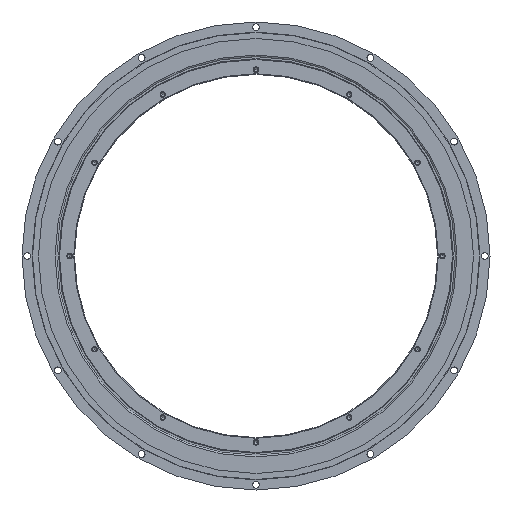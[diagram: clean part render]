
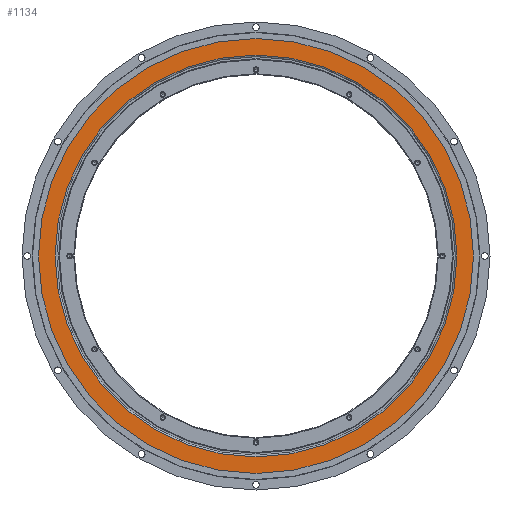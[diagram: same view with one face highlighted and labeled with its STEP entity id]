
A CAD part, front view. The second image highlights one B-rep face of the part: STEP entity #1134.
In plain terms, the highlighted planar face has unit normal (0, -1, 0) as drawn and (1, 0, 0) by its records, which use the part's own axes.
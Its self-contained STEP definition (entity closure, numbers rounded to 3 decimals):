
#1134=ADVANCED_FACE('',(#2280,#2282),#2284,.T.);
#2280=FACE_BOUND('',#2281,.T.);
#2281=EDGE_LOOP('',(#2669));
#2282=FACE_BOUND('',#2283,.T.);
#2283=EDGE_LOOP('',(#2670));
#2284=PLANE('',#2285);
#2285=AXIS2_PLACEMENT_3D('',#2286,#2287,#2288);
#2286=CARTESIAN_POINT('',(-0.001,0.,0.));
#2287=DIRECTION('',(1.,0.,0.));
#2288=DIRECTION('',(0.,0.,-1.));
#2669=ORIENTED_EDGE('',*,*,#2815,.T.);
#2670=ORIENTED_EDGE('',*,*,#2817,.F.);
#2815=EDGE_CURVE('',#3060,#3060,#3061,.T.);
#2817=EDGE_CURVE('',#3064,#3064,#3065,.F.);
#3060=VERTEX_POINT('',#3664);
#3061=CIRCLE('',#3665,269.5);
#3064=VERTEX_POINT('',#3674);
#3065=CIRCLE('',#3675,249.);
#3664=CARTESIAN_POINT('',(-0.001,0.,-269.5));
#3665=AXIS2_PLACEMENT_3D('',#3666,#3667,#3668);
#3666=CARTESIAN_POINT('',(-0.001,0.,0.));
#3667=DIRECTION('',(1.,0.,0.));
#3668=DIRECTION('',(0.,0.,-1.));
#3674=CARTESIAN_POINT('',(-0.001,0.,249.));
#3675=AXIS2_PLACEMENT_3D('',#3676,#3677,#3678);
#3676=CARTESIAN_POINT('',(-0.001,0.,0.));
#3677=DIRECTION('',(-1.,0.,0.));
#3678=DIRECTION('',(0.,0.,1.));
